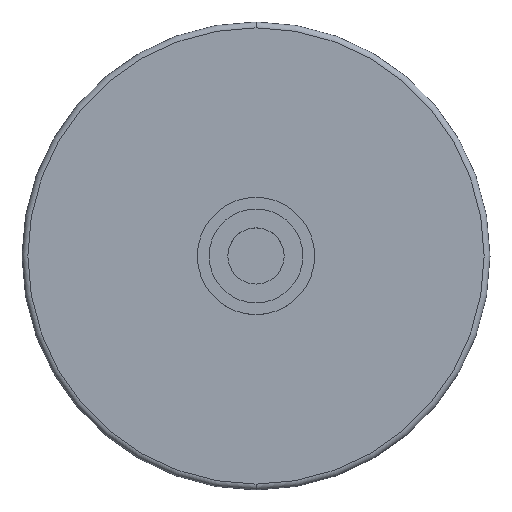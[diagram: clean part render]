
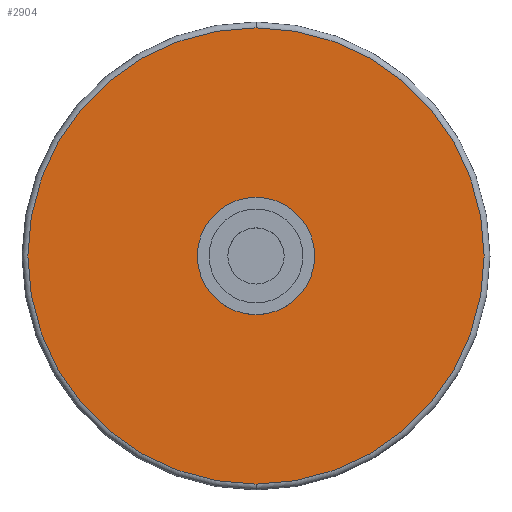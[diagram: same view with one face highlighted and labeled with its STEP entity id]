
A CAD part, top view. The second image highlights one B-rep face of the part: STEP entity #2904.
In plain terms, the highlighted planar face has unit normal (0, 0, 1).
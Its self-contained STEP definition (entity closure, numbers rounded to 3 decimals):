
#164 = EDGE_LOOP ( 'NONE', ( #1616, #1564 ) ) ;
#252 = CARTESIAN_POINT ( 'NONE',  ( 0., 25., -14. ) ) ;
#283 = DIRECTION ( 'NONE',  ( 0., 0., 1. ) ) ;
#410 = EDGE_CURVE ( 'NONE', #973, #2817, #1560, .T. ) ;
#457 = DIRECTION ( 'NONE',  ( 0., 0., 1. ) ) ;
#503 = CARTESIAN_POINT ( 'NONE',  ( 0., 0., -14. ) ) ;
#516 = AXIS2_PLACEMENT_3D ( 'NONE', #2287, #2048, #857 ) ;
#548 = CARTESIAN_POINT ( 'NONE',  ( 0., 97.272, -14. ) ) ;
#642 = ORIENTED_EDGE ( 'NONE', *, *, #1845, .T. ) ;
#777 = DIRECTION ( 'NONE',  ( 0., 0., -1. ) ) ;
#857 = DIRECTION ( 'NONE',  ( 0., -1., 0. ) ) ;
#973 = VERTEX_POINT ( 'NONE', #1239 ) ;
#987 = AXIS2_PLACEMENT_3D ( 'NONE', #2147, #457, #3125 ) ;
#1142 = AXIS2_PLACEMENT_3D ( 'NONE', #252, #777, #1787 ) ;
#1239 = CARTESIAN_POINT ( 'NONE',  ( 0., -25., -14. ) ) ;
#1254 = CARTESIAN_POINT ( 'NONE',  ( 0., -97.272, -14. ) ) ;
#1283 = CIRCLE ( 'NONE', #1676, 97.272 ) ;
#1289 = CARTESIAN_POINT ( 'NONE',  ( 0., 0., -14. ) ) ;
#1292 = VERTEX_POINT ( 'NONE', #1254 ) ;
#1560 = CIRCLE ( 'NONE', #3134, 25. ) ;
#1564 = ORIENTED_EDGE ( 'NONE', *, *, #2162, .F. ) ;
#1616 = ORIENTED_EDGE ( 'NONE', *, *, #410, .F. ) ;
#1676 = AXIS2_PLACEMENT_3D ( 'NONE', #503, #2264, #2701 ) ;
#1774 = FACE_OUTER_BOUND ( 'NONE', #2558, .T. ) ;
#1787 = DIRECTION ( 'NONE',  ( 0., 1., 0. ) ) ;
#1845 = EDGE_CURVE ( 'NONE', #2237, #1292, #1283, .T. ) ;
#1953 = ORIENTED_EDGE ( 'NONE', *, *, #2738, .T. ) ;
#1957 = CIRCLE ( 'NONE', #987, 25. ) ;
#2048 = DIRECTION ( 'NONE',  ( 0., 0., 1. ) ) ;
#2098 = CIRCLE ( 'NONE', #516, 97.272 ) ;
#2147 = CARTESIAN_POINT ( 'NONE',  ( 0., 0., -14. ) ) ;
#2162 = EDGE_CURVE ( 'NONE', #2817, #973, #1957, .T. ) ;
#2213 = DIRECTION ( 'NONE',  ( 0., -1., 0. ) ) ;
#2237 = VERTEX_POINT ( 'NONE', #548 ) ;
#2264 = DIRECTION ( 'NONE',  ( 0., 0., 1. ) ) ;
#2287 = CARTESIAN_POINT ( 'NONE',  ( 0., 0., -14. ) ) ;
#2558 = EDGE_LOOP ( 'NONE', ( #1953, #642 ) ) ;
#2564 = CARTESIAN_POINT ( 'NONE',  ( 0., 25., -14. ) ) ;
#2701 = DIRECTION ( 'NONE',  ( 0., -1., 0. ) ) ;
#2738 = EDGE_CURVE ( 'NONE', #1292, #2237, #2098, .T. ) ;
#2817 = VERTEX_POINT ( 'NONE', #2564 ) ;
#2904 = ADVANCED_FACE ( 'NONE', ( #2986, #1774 ), #2930, .F. ) ;
#2930 = PLANE ( 'NONE',  #1142 ) ;
#2986 = FACE_BOUND ( 'NONE', #164, .T. ) ;
#3125 = DIRECTION ( 'NONE',  ( 0., -1., 0. ) ) ;
#3134 = AXIS2_PLACEMENT_3D ( 'NONE', #1289, #283, #2213 ) ;
